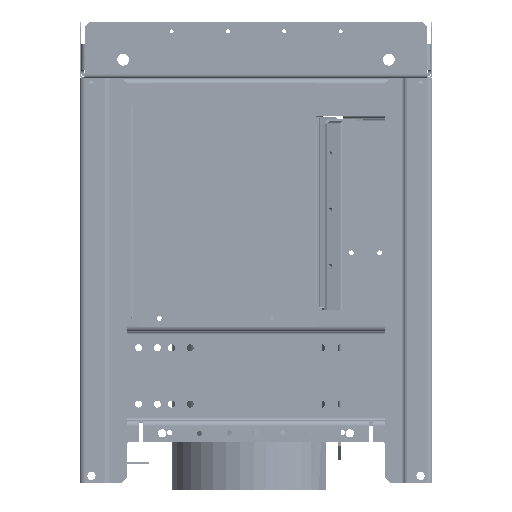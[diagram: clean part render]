
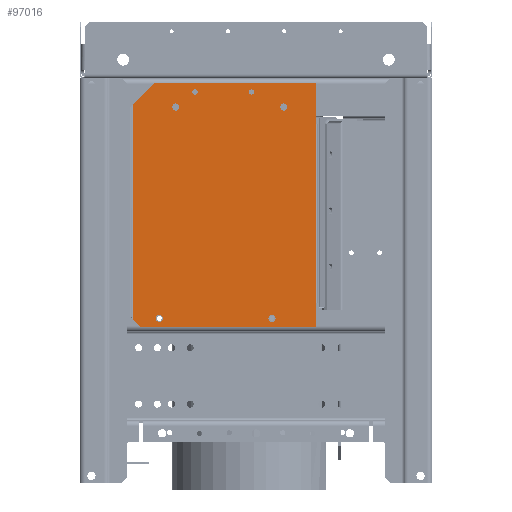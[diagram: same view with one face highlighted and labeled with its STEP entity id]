
A CAD part, left-side view. The second image highlights one B-rep face of the part: STEP entity #97016.
In plain terms, the highlighted planar face has unit normal (-1, 0, 0) as drawn and (0, 0, -1) by its records, which use the part's own axes.
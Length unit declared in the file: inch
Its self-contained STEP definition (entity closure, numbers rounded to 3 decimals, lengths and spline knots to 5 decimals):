
#95938=DIRECTION('',(-1.,0.,0.));
#95939=VECTOR('',#95938,1.25);
#95940=CARTESIAN_POINT('',(6.505,10.58975,-0.0396));
#95941=LINE('',#95940,#95939);
#96014=DIRECTION('',(1.,0.,0.));
#96015=VECTOR('',#96014,11.4248);
#96016=CARTESIAN_POINT('',(-5.3374,20.34442,-0.0396));
#96017=LINE('',#96016,#96015);
#96037=DIRECTION('',(-0.707,-0.707,0.));
#96038=VECTOR('',#96037,1.65124);
#96039=CARTESIAN_POINT('',(-5.3374,20.34442,-0.0396));
#96040=LINE('',#96039,#96038);
#96041=DIRECTION('',(0.,-1.,0.));
#96042=VECTOR('',#96041,8.58707);
#96043=CARTESIAN_POINT('',(-6.505,19.17682,-0.0396));
#96044=LINE('',#96043,#96042);
#96045=DIRECTION('',(1.,0.,0.));
#96046=VECTOR('',#96045,2.2);
#96047=CARTESIAN_POINT('',(-6.505,10.58975,-0.0396));
#96048=LINE('',#96047,#96046);
#96049=DIRECTION('',(0.,1.,0.));
#96050=VECTOR('',#96049,9.33707);
#96051=CARTESIAN_POINT('',(6.505,10.58975,-0.0396));
#96052=LINE('',#96051,#96050);
#96053=DIRECTION('',(-0.707,0.707,0.));
#96054=VECTOR('',#96053,0.59058);
#96055=CARTESIAN_POINT('',(6.505,19.92682,-0.0396));
#96056=LINE('',#96055,#96054);
#96057=CARTESIAN_POINT('',(-5.205,12.29402,-0.0396));
#96058=DIRECTION('',(0.,0.,-1.));
#96059=DIRECTION('',(-1.,0.,0.));
#96060=AXIS2_PLACEMENT_3D('',#96057,#96058,#96059);
#96062=CARTESIAN_POINT('',(-5.205,12.29402,-0.0396));
#96063=DIRECTION('',(0.,0.,-1.));
#96064=DIRECTION('',(1.,0.,0.));
#96065=AXIS2_PLACEMENT_3D('',#96062,#96063,#96064);
#96067=CARTESIAN_POINT('',(6.055,18.92402,-0.0396));
#96068=DIRECTION('',(0.,0.,-1.));
#96069=DIRECTION('',(-1.,0.,0.));
#96070=AXIS2_PLACEMENT_3D('',#96067,#96068,#96069);
#96072=CARTESIAN_POINT('',(6.055,18.92402,-0.0396));
#96073=DIRECTION('',(0.,0.,-1.));
#96074=DIRECTION('',(1.,0.,0.));
#96075=AXIS2_PLACEMENT_3D('',#96072,#96073,#96074);
#96077=CARTESIAN_POINT('',(6.055,12.92402,-0.0396));
#96078=DIRECTION('',(0.,0.,-1.));
#96079=DIRECTION('',(-1.,0.,0.));
#96080=AXIS2_PLACEMENT_3D('',#96077,#96078,#96079);
#96082=CARTESIAN_POINT('',(6.055,12.92402,-0.0396));
#96083=DIRECTION('',(0.,0.,-1.));
#96084=DIRECTION('',(1.,0.,0.));
#96085=AXIS2_PLACEMENT_3D('',#96082,#96083,#96084);
#96087=CARTESIAN_POINT('',(-6.005,17.01975,-0.0396));
#96088=DIRECTION('',(0.,0.,-1.));
#96089=DIRECTION('',(1.,0.,0.));
#96090=AXIS2_PLACEMENT_3D('',#96087,#96088,#96089);
#96092=CARTESIAN_POINT('',(-6.005,17.01975,-0.0396));
#96093=DIRECTION('',(0.,0.,-1.));
#96094=DIRECTION('',(-1.,0.,0.));
#96095=AXIS2_PLACEMENT_3D('',#96092,#96093,#96094);
#96097=CARTESIAN_POINT('',(-6.005,14.01975,-0.0396));
#96098=DIRECTION('',(0.,0.,-1.));
#96099=DIRECTION('',(1.,0.,0.));
#96100=AXIS2_PLACEMENT_3D('',#96097,#96098,#96099);
#96102=CARTESIAN_POINT('',(-6.005,14.01975,-0.0396));
#96103=DIRECTION('',(0.,0.,-1.));
#96104=DIRECTION('',(-1.,0.,0.));
#96105=AXIS2_PLACEMENT_3D('',#96102,#96103,#96104);
#96107=CARTESIAN_POINT('',(-5.205,18.04402,-0.0396));
#96108=DIRECTION('',(0.,0.,-1.));
#96109=DIRECTION('',(-1.,0.,0.));
#96110=AXIS2_PLACEMENT_3D('',#96107,#96108,#96109);
#96112=CARTESIAN_POINT('',(-5.205,18.04402,-0.0396));
#96113=DIRECTION('',(0.,0.,-1.));
#96114=DIRECTION('',(1.,0.,0.));
#96115=AXIS2_PLACEMENT_3D('',#96112,#96113,#96114);
#96121=DIRECTION('',(-1.,0.,0.));
#96122=VECTOR('',#96121,9.56);
#96123=CARTESIAN_POINT('',(5.255,10.58975,-0.0396));
#96124=LINE('',#96123,#96122);
#96353=CARTESIAN_POINT('',(-6.505,19.17682,-0.0396));
#96354=VERTEX_POINT('',#96353);
#96355=CARTESIAN_POINT('',(-5.3374,20.34442,-0.0396));
#96356=VERTEX_POINT('',#96355);
#96357=CARTESIAN_POINT('',(-6.505,10.58975,-0.0396));
#96358=VERTEX_POINT('',#96357);
#96359=CARTESIAN_POINT('',(-4.305,10.58975,-0.03963));
#96360=VERTEX_POINT('',#96359);
#96417=CARTESIAN_POINT('',(5.255,10.58975,-0.0396));
#96418=VERTEX_POINT('',#96417);
#96419=CARTESIAN_POINT('',(6.505,10.58975,-0.0396));
#96420=VERTEX_POINT('',#96419);
#96421=CARTESIAN_POINT('',(6.505,19.92682,-0.0396));
#96422=VERTEX_POINT('',#96421);
#96423=CARTESIAN_POINT('',(6.0874,20.34442,-0.0396));
#96424=VERTEX_POINT('',#96423);
#96430=CARTESIAN_POINT('',(-5.395,12.29402,-0.0396));
#96431=CARTESIAN_POINT('',(-5.015,12.29402,-0.0396));
#96432=VERTEX_POINT('',#96430);
#96433=VERTEX_POINT('',#96431);
#96434=CARTESIAN_POINT('',(5.865,18.92402,-0.0396));
#96435=CARTESIAN_POINT('',(6.245,18.92402,-0.0396));
#96436=VERTEX_POINT('',#96434);
#96437=VERTEX_POINT('',#96435);
#96438=CARTESIAN_POINT('',(5.865,12.92402,-0.0396));
#96439=CARTESIAN_POINT('',(6.245,12.92402,-0.0396));
#96440=VERTEX_POINT('',#96438);
#96441=VERTEX_POINT('',#96439);
#96442=CARTESIAN_POINT('',(-5.865,17.01975,-0.0396));
#96443=CARTESIAN_POINT('',(-6.145,17.01975,-0.0396));
#96444=VERTEX_POINT('',#96442);
#96445=VERTEX_POINT('',#96443);
#96446=CARTESIAN_POINT('',(-5.865,14.01975,-0.0396));
#96447=CARTESIAN_POINT('',(-6.145,14.01975,-0.0396));
#96448=VERTEX_POINT('',#96446);
#96449=VERTEX_POINT('',#96447);
#96450=CARTESIAN_POINT('',(-5.395,18.04402,-0.0396));
#96451=CARTESIAN_POINT('',(-5.015,18.04402,-0.0396));
#96452=VERTEX_POINT('',#96450);
#96453=VERTEX_POINT('',#96451);
#96964=CARTESIAN_POINT('',(0.,0.,-0.0396));
#96965=DIRECTION('',(0.,0.,1.));
#96966=DIRECTION('',(1.,0.,0.));
#96967=AXIS2_PLACEMENT_3D('',#96964,#96965,#96966);
#96968=PLANE('',#96967);
#96969=ORIENTED_EDGE('',*,*,#96543,.T.);
#96970=ORIENTED_EDGE('',*,*,#96559,.T.);
#96971=ORIENTED_EDGE('',*,*,#96572,.T.);
#96973=ORIENTED_EDGE('',*,*,#96972,.F.);
#96974=ORIENTED_EDGE('',*,*,#96801,.F.);
#96975=ORIENTED_EDGE('',*,*,#96814,.T.);
#96976=ORIENTED_EDGE('',*,*,#96829,.T.);
#96977=ORIENTED_EDGE('',*,*,#96956,.F.);
#96978=EDGE_LOOP('',(#96969,#96970,#96971,#96973,#96974,#96975,#96976,#96977));
#96979=FACE_OUTER_BOUND('',#96978,.F.);
#96981=ORIENTED_EDGE('',*,*,#96980,.T.);
#96983=ORIENTED_EDGE('',*,*,#96982,.T.);
#96984=EDGE_LOOP('',(#96981,#96983));
#96985=FACE_BOUND('',#96984,.F.);
#96987=ORIENTED_EDGE('',*,*,#96986,.T.);
#96989=ORIENTED_EDGE('',*,*,#96988,.T.);
#96990=EDGE_LOOP('',(#96987,#96989));
#96991=FACE_BOUND('',#96990,.F.);
#96993=ORIENTED_EDGE('',*,*,#96992,.T.);
#96995=ORIENTED_EDGE('',*,*,#96994,.T.);
#96996=EDGE_LOOP('',(#96993,#96995));
#96997=FACE_BOUND('',#96996,.F.);
#96999=ORIENTED_EDGE('',*,*,#96998,.T.);
#97001=ORIENTED_EDGE('',*,*,#97000,.T.);
#97002=EDGE_LOOP('',(#96999,#97001));
#97003=FACE_BOUND('',#97002,.F.);
#97005=ORIENTED_EDGE('',*,*,#97004,.T.);
#97007=ORIENTED_EDGE('',*,*,#97006,.T.);
#97008=EDGE_LOOP('',(#97005,#97007));
#97009=FACE_BOUND('',#97008,.F.);
#97011=ORIENTED_EDGE('',*,*,#97010,.T.);
#97013=ORIENTED_EDGE('',*,*,#97012,.T.);
#97014=EDGE_LOOP('',(#97011,#97013));
#97015=FACE_BOUND('',#97014,.F.);
#97016=ADVANCED_FACE('',(#96979,#96985,#96991,#96997,#97003,#97009,#97015),
#96968,.F.);
#96061=CIRCLE('',#96060,0.19);
#96066=CIRCLE('',#96065,0.19);
#96071=CIRCLE('',#96070,0.19);
#96076=CIRCLE('',#96075,0.19);
#96081=CIRCLE('',#96080,0.19);
#96086=CIRCLE('',#96085,0.19);
#96091=CIRCLE('',#96090,0.14);
#96096=CIRCLE('',#96095,0.14);
#96101=CIRCLE('',#96100,0.14);
#96106=CIRCLE('',#96105,0.14);
#96111=CIRCLE('',#96110,0.19);
#96116=CIRCLE('',#96115,0.19);
#96543=EDGE_CURVE('',#96356,#96354,#96040,.T.);
#96559=EDGE_CURVE('',#96354,#96358,#96044,.T.);
#96572=EDGE_CURVE('',#96358,#96360,#96048,.T.);
#96801=EDGE_CURVE('',#96420,#96418,#95941,.T.);
#96814=EDGE_CURVE('',#96420,#96422,#96052,.T.);
#96829=EDGE_CURVE('',#96422,#96424,#96056,.T.);
#96956=EDGE_CURVE('',#96356,#96424,#96017,.T.);
#96972=EDGE_CURVE('',#96418,#96360,#96124,.T.);
#96980=EDGE_CURVE('',#96432,#96433,#96061,.T.);
#96982=EDGE_CURVE('',#96433,#96432,#96066,.T.);
#96986=EDGE_CURVE('',#96436,#96437,#96071,.T.);
#96988=EDGE_CURVE('',#96437,#96436,#96076,.T.);
#96992=EDGE_CURVE('',#96440,#96441,#96081,.T.);
#96994=EDGE_CURVE('',#96441,#96440,#96086,.T.);
#96998=EDGE_CURVE('',#96444,#96445,#96091,.T.);
#97000=EDGE_CURVE('',#96445,#96444,#96096,.T.);
#97004=EDGE_CURVE('',#96448,#96449,#96101,.T.);
#97006=EDGE_CURVE('',#96449,#96448,#96106,.T.);
#97010=EDGE_CURVE('',#96452,#96453,#96111,.T.);
#97012=EDGE_CURVE('',#96453,#96452,#96116,.T.);
